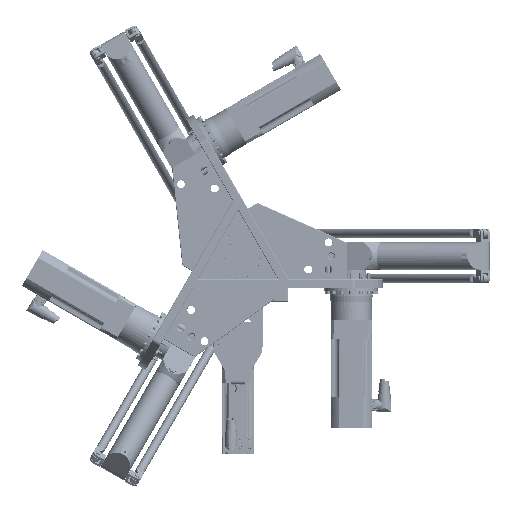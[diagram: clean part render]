
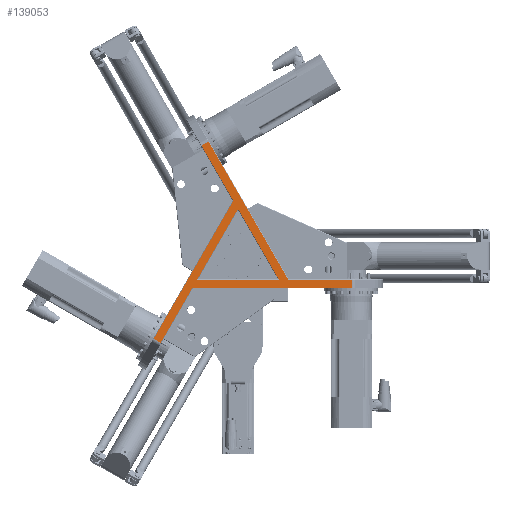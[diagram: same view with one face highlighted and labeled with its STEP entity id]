
A CAD part, top view. The second image highlights one B-rep face of the part: STEP entity #139053.
In plain terms, the highlighted planar face has unit normal (0, 0, 1).
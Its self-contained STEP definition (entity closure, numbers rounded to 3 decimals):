
#1770 = DIRECTION ( 'NONE',  ( 0.5, -0.866, 0. ) ) ;
#4615 = CARTESIAN_POINT ( 'NONE',  ( 110.851, -52., -1. ) ) ;
#6533 = VERTEX_POINT ( 'NONE', #115348 ) ;
#6575 = EDGE_CURVE ( 'NONE', #24667, #12592, #21602, .T. ) ;
#9188 = VECTOR ( 'NONE', #190520, 1000. ) ;
#9214 = VECTOR ( 'NONE', #162274, 1000. ) ;
#11098 = VECTOR ( 'NONE', #176169, 1000. ) ;
#12592 = VERTEX_POINT ( 'NONE', #129813 ) ;
#13624 = CARTESIAN_POINT ( 'NONE',  ( -90.067, -52., -1. ) ) ;
#16666 = DIRECTION ( 'NONE',  ( -0.5, -0.866, 0. ) ) ;
#21602 = LINE ( 'NONE', #145293, #114882 ) ;
#21698 = EDGE_LOOP ( 'NONE', ( #120771, #191802, #62394, #47382, #167761, #43598, #99658, #35410, #170740 ) ) ;
#24667 = VERTEX_POINT ( 'NONE', #13624 ) ;
#26628 = VERTEX_POINT ( 'NONE', #114417 ) ;
#29419 = DIRECTION ( 'NONE',  ( -1., 0., 0. ) ) ;
#31400 = LINE ( 'NONE', #114794, #103807 ) ;
#31928 = VERTEX_POINT ( 'NONE', #171992 ) ;
#32802 = CARTESIAN_POINT ( 'NONE',  ( -80.715, 243.802, -1. ) ) ;
#35410 = ORIENTED_EDGE ( 'NONE', *, *, #170678, .T. ) ;
#36695 = LINE ( 'NONE', #141909, #141573 ) ;
#40052 = DIRECTION ( 'NONE',  ( -1., 0., 0. ) ) ;
#42428 = CARTESIAN_POINT ( 'NONE',  ( -140.071, -102.61, -1. ) ) ;
#43598 = ORIENTED_EDGE ( 'NONE', *, *, #121319, .T. ) ;
#44787 = ORIENTED_EDGE ( 'NONE', *, *, #6575, .T. ) ;
#47382 = ORIENTED_EDGE ( 'NONE', *, *, #48855, .T. ) ;
#48326 = LINE ( 'NONE', #115629, #11098 ) ;
#48855 = EDGE_CURVE ( 'NONE', #193194, #26628, #153055, .T. ) ;
#52861 = VECTOR ( 'NONE', #138800, 1000. ) ;
#55954 = EDGE_CURVE ( 'NONE', #159108, #181647, #97878, .T. ) ;
#56064 = VERTEX_POINT ( 'NONE', #165478 ) ;
#58445 = LINE ( 'NONE', #127309, #9188 ) ;
#62394 = ORIENTED_EDGE ( 'NONE', *, *, #134325, .T. ) ;
#63601 = VECTOR ( 'NONE', #84792, 1000. ) ;
#65748 = DIRECTION ( 'NONE',  ( 0.866, -0.5, 0. ) ) ;
#72412 = LINE ( 'NONE', #103744, #167869 ) ;
#75579 = LINE ( 'NONE', #127935, #180448 ) ;
#76340 = CARTESIAN_POINT ( 'NONE',  ( 110.851, -52., -1. ) ) ;
#80051 = LINE ( 'NONE', #42428, #63601 ) ;
#80307 = LINE ( 'NONE', #138467, #103757 ) ;
#84792 = DIRECTION ( 'NONE',  ( 0.5, 0.866, 0. ) ) ;
#90815 = EDGE_CURVE ( 'NONE', #12592, #6533, #31400, .T. ) ;
#94108 = VERTEX_POINT ( 'NONE', #32802 ) ;
#97878 = LINE ( 'NONE', #190377, #9214 ) ;
#99658 = ORIENTED_EDGE ( 'NONE', *, *, #178425, .F. ) ;
#103744 = CARTESIAN_POINT ( 'NONE',  ( 251.496, -52., -1. ) ) ;
#103757 = VECTOR ( 'NONE', #1770, 1000. ) ;
#103807 = VECTOR ( 'NONE', #143447, 1000. ) ;
#106020 = PLANE ( 'NONE',  #136090 ) ;
#106244 = CARTESIAN_POINT ( 'NONE',  ( -65.126, 252.802, -1. ) ) ;
#113315 = CARTESIAN_POINT ( 'NONE',  ( -100.459, -70., -1. ) ) ;
#114417 = CARTESIAN_POINT ( 'NONE',  ( -65.126, 252.802, -1. ) ) ;
#114794 = CARTESIAN_POINT ( 'NONE',  ( 0., 104., -1. ) ) ;
#114882 = VECTOR ( 'NONE', #128955, 1000. ) ;
#115348 = CARTESIAN_POINT ( 'NONE',  ( 90.067, -52., -1. ) ) ;
#115629 = CARTESIAN_POINT ( 'NONE',  ( 251.496, -70., -1. ) ) ;
#116778 = VECTOR ( 'NONE', #164755, 1000. ) ;
#120771 = ORIENTED_EDGE ( 'NONE', *, *, #149803, .T. ) ;
#121319 = EDGE_CURVE ( 'NONE', #94108, #56064, #80307, .T. ) ;
#122186 = CARTESIAN_POINT ( 'NONE',  ( 110.058, -61., -1. ) ) ;
#127309 = CARTESIAN_POINT ( 'NONE',  ( -100.459, -70., -1. ) ) ;
#127935 = CARTESIAN_POINT ( 'NONE',  ( 90.067, -52., -1. ) ) ;
#128955 = DIRECTION ( 'NONE',  ( 0.5, 0.866, 0. ) ) ;
#129813 = CARTESIAN_POINT ( 'NONE',  ( 0., 104., -1. ) ) ;
#130562 = EDGE_CURVE ( 'NONE', #6533, #24667, #75579, .T. ) ;
#134325 = EDGE_CURVE ( 'NONE', #31928, #193194, #72412, .T. ) ;
#136090 = AXIS2_PLACEMENT_3D ( 'NONE', #122186, #151491, #16666 ) ;
#138467 = CARTESIAN_POINT ( 'NONE',  ( -80.715, 243.802, -1. ) ) ;
#138800 = DIRECTION ( 'NONE',  ( -0.5, 0.866, 0. ) ) ;
#139053 = ADVANCED_FACE ( 'NONE', ( #146973, #151645 ), #106020, .T. ) ;
#141573 = VECTOR ( 'NONE', #65748, 1000. ) ;
#141909 = CARTESIAN_POINT ( 'NONE',  ( -16.79, -280.708, -1. ) ) ;
#141943 = CARTESIAN_POINT ( 'NONE',  ( -186.37, -182.802, -1. ) ) ;
#143447 = DIRECTION ( 'NONE',  ( 0.5, -0.866, 0. ) ) ;
#145293 = CARTESIAN_POINT ( 'NONE',  ( -43.932, 27.907, -1. ) ) ;
#146973 = FACE_BOUND ( 'NONE', #165734, .T. ) ;
#147768 = CARTESIAN_POINT ( 'NONE',  ( -170.781, -191.802, -1. ) ) ;
#149281 = LINE ( 'NONE', #106244, #116778 ) ;
#149803 = EDGE_CURVE ( 'NONE', #181647, #157254, #58445, .T. ) ;
#151491 = DIRECTION ( 'NONE',  ( 0., 0., 1. ) ) ;
#151645 = FACE_OUTER_BOUND ( 'NONE', #21698, .T. ) ;
#153055 = LINE ( 'NONE', #76340, #52861 ) ;
#153388 = ORIENTED_EDGE ( 'NONE', *, *, #90815, .T. ) ;
#157254 = VERTEX_POINT ( 'NONE', #170265 ) ;
#159108 = VERTEX_POINT ( 'NONE', #147768 ) ;
#162274 = DIRECTION ( 'NONE',  ( 0.5, 0.866, 0. ) ) ;
#162430 = VERTEX_POINT ( 'NONE', #141943 ) ;
#164755 = DIRECTION ( 'NONE',  ( -0.866, -0.5, 0. ) ) ;
#165427 = EDGE_CURVE ( 'NONE', #26628, #94108, #149281, .T. ) ;
#165478 = CARTESIAN_POINT ( 'NONE',  ( -10.392, 122., -1. ) ) ;
#165734 = EDGE_LOOP ( 'NONE', ( #153388, #179962, #44787 ) ) ;
#167761 = ORIENTED_EDGE ( 'NONE', *, *, #165427, .T. ) ;
#167869 = VECTOR ( 'NONE', #29419, 1000. ) ;
#169529 = EDGE_CURVE ( 'NONE', #157254, #31928, #48326, .T. ) ;
#170265 = CARTESIAN_POINT ( 'NONE',  ( 251.496, -70., -1. ) ) ;
#170678 = EDGE_CURVE ( 'NONE', #162430, #159108, #36695, .T. ) ;
#170740 = ORIENTED_EDGE ( 'NONE', *, *, #55954, .T. ) ;
#171992 = CARTESIAN_POINT ( 'NONE',  ( 251.496, -52., -1. ) ) ;
#176169 = DIRECTION ( 'NONE',  ( 0., 1., 0. ) ) ;
#178425 = EDGE_CURVE ( 'NONE', #162430, #56064, #80051, .T. ) ;
#179962 = ORIENTED_EDGE ( 'NONE', *, *, #130562, .T. ) ;
#180448 = VECTOR ( 'NONE', #40052, 1000. ) ;
#181647 = VERTEX_POINT ( 'NONE', #113315 ) ;
#190377 = CARTESIAN_POINT ( 'NONE',  ( -43.932, 27.907, -1. ) ) ;
#190520 = DIRECTION ( 'NONE',  ( 1., 0., 0. ) ) ;
#191802 = ORIENTED_EDGE ( 'NONE', *, *, #169529, .T. ) ;
#193194 = VERTEX_POINT ( 'NONE', #4615 ) ;
